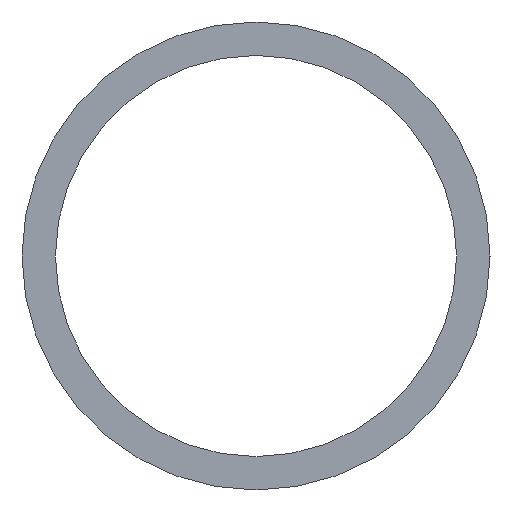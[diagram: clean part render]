
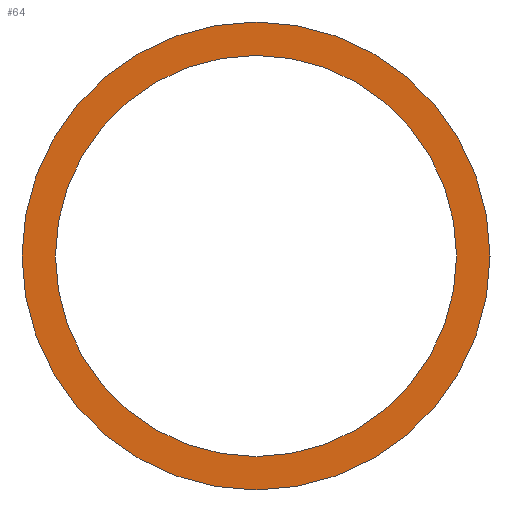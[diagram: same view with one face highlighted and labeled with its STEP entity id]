
A CAD part, left-side view. The second image highlights one B-rep face of the part: STEP entity #64.
In plain terms, the highlighted planar face has unit normal (-1, 0, 0).
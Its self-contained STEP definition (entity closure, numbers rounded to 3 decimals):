
#16=FACE_BOUND('',#28,.T.);
#18=PLANE('',#86);
#22=FACE_OUTER_BOUND('',#27,.T.);
#27=EDGE_LOOP('',(#57));
#28=EDGE_LOOP('',(#58));
#34=CIRCLE('',#81,6.);
#36=CIRCLE('',#84,7.);
#38=VERTEX_POINT('',#111);
#40=VERTEX_POINT('',#117);
#43=EDGE_CURVE('',#38,#38,#34,.T.);
#46=EDGE_CURVE('',#40,#40,#36,.T.);
#57=ORIENTED_EDGE('',*,*,#46,.F.);
#58=ORIENTED_EDGE('',*,*,#43,.F.);
#64=ADVANCED_FACE('',(#22,#16),#18,.F.);
#81=AXIS2_PLACEMENT_3D('',#113,#94,#95);
#84=AXIS2_PLACEMENT_3D('',#119,#101,#102);
#86=AXIS2_PLACEMENT_3D('',#121,#105,#106);
#94=DIRECTION('center_axis',(-1.,0.,0.));
#95=DIRECTION('ref_axis',(0.,1.,0.));
#101=DIRECTION('center_axis',(1.,0.,0.));
#102=DIRECTION('ref_axis',(0.,1.,0.));
#105=DIRECTION('center_axis',(1.,0.,0.));
#106=DIRECTION('ref_axis',(0.,1.,0.));
#111=CARTESIAN_POINT('',(0.,-6.,0.));
#113=CARTESIAN_POINT('Origin',(0.,0.,0.));
#117=CARTESIAN_POINT('',(0.,-7.,0.));
#119=CARTESIAN_POINT('Origin',(0.,0.,0.));
#121=CARTESIAN_POINT('Origin',(0.,0.,0.));
